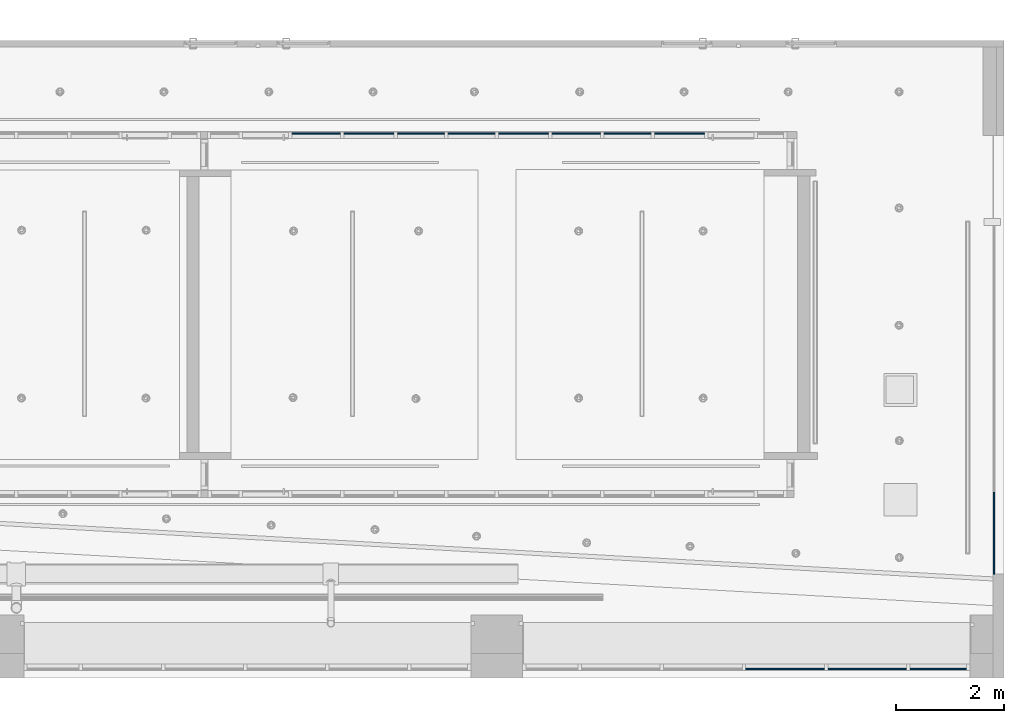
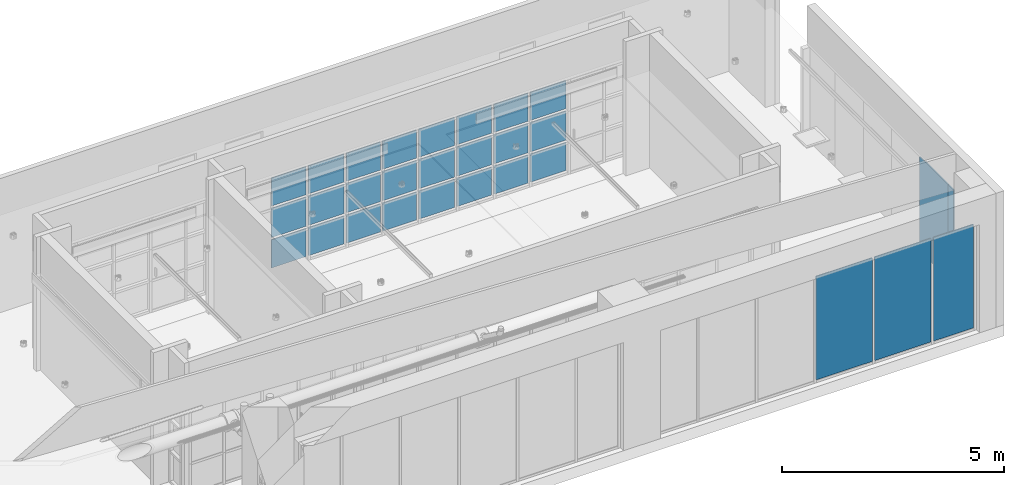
# One storey, part 14 of 108: 29 plates, 3 elements without a shape of their own.
"""IFC4 building model written with IfcOpenShell, lengths in feet."""

from ifc_helpers import new_model, entity, si_unit, converted_unit, derived_unit, direction, frame, frame_2d, origin, origin_2d_with_axis, place, context, subcontext, project, spatial, rectangle, extrude, shape, source, transform, mapped, material, layer, layer_set, layer_usage, type_object, type_shapes, element, aggregate, save


model = new_model("IFC4")

# Units and contexts
model_context = context("Model", 3, precision=0.0001, world=origin(), true_north=direction((6.12303176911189e-17, 1.0)))
body_context = subcontext(model_context, "Body", "Model", "MODEL_VIEW")
footprint_context = subcontext(model_context, "FootPrint", "Model", "MODEL_VIEW")
ifc_project = project(units=[converted_unit("LENGTHUNIT", "FOOT", entity("IfcRatioMeasure", 0.3048), si_unit("LENGTHUNIT", "METRE"), dimensions=[1, 0, 0, 0, 0, 0, 0]), converted_unit("AREAUNIT", "SQUARE FOOT", entity("IfcRatioMeasure", 0.09290304), si_unit("AREAUNIT", "SQUARE_METRE"), dimensions=[2, 0, 0, 0, 0, 0, 0]), converted_unit("VOLUMEUNIT", "CUBIC FOOT", entity("IfcRatioMeasure", 0.028316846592), si_unit("VOLUMEUNIT", "CUBIC_METRE"), dimensions=[3, 0, 0, 0, 0, 0, 0]), converted_unit("PLANEANGLEUNIT", "DEGREE", entity("IfcRatioMeasure", 0.0174532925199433), si_unit("PLANEANGLEUNIT", "RADIAN"), dimensions=[0, 0, 0, 0, 0, 0, 0]), si_unit("MASSUNIT", "GRAM", prefix="KILO"), derived_unit("MASSDENSITYUNIT", [(si_unit("MASSUNIT", "GRAM", prefix="KILO"), 1), (si_unit("LENGTHUNIT", "METRE"), -3)]), si_unit("TIMEUNIT", "SECOND"), si_unit("FREQUENCYUNIT", "HERTZ"), si_unit("THERMODYNAMICTEMPERATUREUNIT", "DEGREE_CELSIUS"), derived_unit("THERMALTRANSMITTANCEUNIT", [(si_unit("MASSUNIT", "GRAM", prefix="KILO"), 1), (si_unit("THERMODYNAMICTEMPERATUREUNIT", "KELVIN"), -1), (si_unit("TIMEUNIT", "SECOND"), -3)]), derived_unit("VOLUMETRICFLOWRATEUNIT", [(si_unit("LENGTHUNIT", "METRE"), 3), (si_unit("TIMEUNIT", "SECOND"), -1)]), si_unit("ELECTRICCURRENTUNIT", "AMPERE"), si_unit("ELECTRICVOLTAGEUNIT", "VOLT"), si_unit("POWERUNIT", "WATT"), si_unit("FORCEUNIT", "NEWTON"), si_unit("ILLUMINANCEUNIT", "LUX"), si_unit("LUMINOUSFLUXUNIT", "LUMEN"), si_unit("LUMINOUSINTENSITYUNIT", "CANDELA"), derived_unit("USERDEFINED", [(si_unit("MASSUNIT", "GRAM", prefix="KILO"), -1), (si_unit("LENGTHUNIT", "METRE"), -2), (si_unit("TIMEUNIT", "SECOND"), 3), (si_unit("LUMINOUSFLUXUNIT", "LUMEN"), 1)]), derived_unit("LINEARVELOCITYUNIT", [(si_unit("LENGTHUNIT", "METRE"), 1), (si_unit("TIMEUNIT", "SECOND"), -1)]), si_unit("PRESSUREUNIT", "PASCAL"), derived_unit("USERDEFINED", [(si_unit("LENGTHUNIT", "METRE"), -2), (si_unit("MASSUNIT", "GRAM", prefix="KILO"), 1), (si_unit("TIMEUNIT", "SECOND"), -2)])], contexts=[model_context])

# Site, building, storey
site_placement = place(None, origin())
site = spatial("IfcSite", under=ifc_project, at=site_placement, Name="Default", CompositionType="ELEMENT")
building_placement = place(site_placement, origin())
building = spatial("IfcBuilding", under=site, at=building_placement, CompositionType="ELEMENT")
storey_placement = place(building_placement, frame((0.0, 0.0, 168.0)))
storey = spatial("IfcBuildingStorey", under=building, at=storey_placement, Name="Level 15", CompositionType="ELEMENT", Elevation=168.0)

# Curtain wall, plates
curtain_wall_type_1 = type_object("IfcCurtainWallType", Name="Curtain Wall:Storefront", PredefinedType="NOTDEFINED")
curtain_wall_1_placement = place(storey_placement, frame((0.0, 0.0, -168.0)))
curtain_wall_1 = element("IfcCurtainWall", 1, at=curtain_wall_1_placement, inside=storey, type_object=curtain_wall_type_1, Name="Curtain Wall:Storefront", ObjectType="Curtain Wall:Storefront", PredefinedType="NOTDEFINED")
ifc_material = material(Name="<Unnamed>")
ifc_layer = layer(ifc_material, 0.0833333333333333, Name="<Unnamed>")
ifc_layer_set = layer_set([ifc_layer], Name="System Panel:Glazed")
ifc_layer_usage_1 = layer_usage(ifc_layer_set, "AXIS3", "POSITIVE", 0.104166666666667)
plate_type_1 = type_object("IfcPlateType", Name="Glazed", PredefinedType="CURTAIN_PANEL", material=ifc_layer_set)
shared_shape_1 = source(origin(), body_context, "Body", "SweptSolid", [
    extrude(rectangle(XDim=0.0833333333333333, YDim=4.16666666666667, at=frame_2d((-6.93889390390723e-18, 0.0), x_axis=(1.0, 0.0))), frame((2.08333333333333, 0.0416666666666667, 0.0), z_axis=(0.0, 0.0, 1.0), x_axis=(0.0, 1.0, 0.0)), (0.0, 0.0, 1.0), 8.52282482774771),
])
cartesian_point_1 = entity("IfcCartesianPoint", [4.16666666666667, 0.0])
shared_shape_2 = source(frame((-2.08333333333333, 0.0625000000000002, 0.0)), footprint_context, "FootPrint", "Curve2D", [
    entity("IfcPolyline", [cartesian_point_1, entity("IfcCartesianPoint", [4.16666666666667, 0.0833333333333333]), entity("IfcCartesianPoint", [0.0, 0.0833333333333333]), entity("IfcCartesianPoint", [0.0, 0.0]), cartesian_point_1]),
])
type_shapes(plate_type_1, [shared_shape_1, shared_shape_2])
plate_1_placement = place(curtain_wall_1_placement, frame((61.2337877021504, -11.7657690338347, 168.0), z_axis=(0.0, 0.0, 1.0), x_axis=(0.0, -1.0, 0.0)))
plate_1 = element("IfcPlate", 2, at=plate_1_placement, type_object=plate_type_1, material=ifc_layer_usage_1, Name="System Panel:Glazed", ObjectType="System Panel:Glazed", PredefinedType="CURTAIN_PANEL", shapes=[
    shape(body_context, "Body", "MappedRepresentation", [mapped(shared_shape_1, transform((0.0, 0.0, 0.0), scale=1.0))]),
    shape(body_context, "Body", "MappedRepresentation", [mapped(shared_shape_2, transform((0.0, 0.0, 0.0), scale=1.0))]),
])
ifc_layer_usage_2 = layer_usage(ifc_layer_set, "AXIS3", "POSITIVE", 0.104166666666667)
plate_type_2 = type_object("IfcPlateType", Name="Glazed", PredefinedType="CURTAIN_PANEL", material=ifc_layer_set)
shared_shape_3 = source(origin(), body_context, "Body", "SweptSolid", [
    extrude(rectangle(XDim=0.0833333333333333, YDim=0.828012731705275, at=frame_2d((-6.93889390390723e-18, 0.0), x_axis=(1.0, 0.0))), frame((0.414006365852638, 0.0416666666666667, 0.0), z_axis=(0.0, 0.0, 1.0), x_axis=(0.0, 1.0, 0.0)), (0.0, 0.0, 1.0), 8.52282482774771),
])
cartesian_point_2 = entity("IfcCartesianPoint", [0.828012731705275, 0.0])
shared_shape_4 = source(frame((-0.414006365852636, 0.0624999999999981, 0.0)), footprint_context, "FootPrint", "Curve2D", [
    entity("IfcPolyline", [cartesian_point_2, entity("IfcCartesianPoint", [0.828012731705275, 0.0833333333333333]), entity("IfcCartesianPoint", [0.0, 0.0833333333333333]), entity("IfcCartesianPoint", [0.0, 0.0]), cartesian_point_2]),
])
type_shapes(plate_type_2, [shared_shape_3, shared_shape_4])
plate_2_placement = place(curtain_wall_1_placement, frame((61.2337877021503, -15.9324357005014, 168.0), z_axis=(0.0, 0.0, 1.0), x_axis=(0.0, -1.0, 0.0)))
plate_2 = element("IfcPlate", 3, at=plate_2_placement, type_object=plate_type_2, material=ifc_layer_usage_2, Name="System Panel:Glazed", ObjectType="System Panel:Glazed", PredefinedType="CURTAIN_PANEL", shapes=[
    shape(body_context, "Body", "MappedRepresentation", [mapped(shared_shape_3, transform((0.0, 0.0, 0.0), scale=1.0))]),
    shape(body_context, "Body", "MappedRepresentation", [mapped(shared_shape_4, transform((0.0, 0.0, 0.0), scale=1.0))]),
])
aggregate(curtain_wall_1, [plate_1, plate_2])

curtain_wall_2_placement = place(storey_placement, frame((0.0, 0.0, -168.0)))
curtain_wall_2 = element("IfcCurtainWall", 4, at=curtain_wall_2_placement, inside=storey, type_object=curtain_wall_type_1, Name="Curtain Wall:Storefront", ObjectType="Curtain Wall:Storefront", PredefinedType="NOTDEFINED")
ifc_layer_usage_3 = layer_usage(ifc_layer_set, "AXIS3", "POSITIVE", 0.104166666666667)
plate_type_3 = type_object("IfcPlateType", Name="Glazed", PredefinedType="CURTAIN_PANEL", material=ifc_layer_set)
shared_shape_5 = source(origin(), body_context, "Body", "SweptSolid", [
    extrude(rectangle(XDim=0.0833333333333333, YDim=3.4375, at=frame_2d((-6.93889390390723e-18, 0.0), x_axis=(1.0, 0.0))), frame((1.71875, 0.0416666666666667, 0.0), z_axis=(0.0, 0.0, 1.0), x_axis=(0.0, 1.0, 0.0)), (0.0, 0.0, 1.0), 9.33210373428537),
])
cartesian_point_3 = entity("IfcCartesianPoint", [3.4375, 0.0])
shared_shape_6 = source(frame((-1.71875, 0.0625, 0.0)), footprint_context, "FootPrint", "Curve2D", [
    entity("IfcPolyline", [cartesian_point_3, entity("IfcCartesianPoint", [3.4375, 0.0833333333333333]), entity("IfcCartesianPoint", [0.0, 0.0833333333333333]), entity("IfcCartesianPoint", [0.0, 0.0]), cartesian_point_3]),
])
type_shapes(plate_type_3, [shared_shape_5, shared_shape_6])
plate_3_placement = place(curtain_wall_2_placement, frame((59.5926457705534, -22.4949357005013, 168.208333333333), z_axis=(0.0, 0.0, 1.0), x_axis=(-1.0, 0.0, 0.0)))
plate_3 = element("IfcPlate", 5, at=plate_3_placement, type_object=plate_type_3, material=ifc_layer_usage_3, Name="System Panel:Glazed", ObjectType="System Panel:Glazed", PredefinedType="CURTAIN_PANEL", shapes=[
    shape(body_context, "Body", "MappedRepresentation", [mapped(shared_shape_5, transform((0.0, 0.0, 0.0), scale=1.0))]),
    shape(body_context, "Body", "MappedRepresentation", [mapped(shared_shape_6, transform((0.0, 0.0, 0.0), scale=1.0))]),
])
ifc_layer_usage_4 = layer_usage(ifc_layer_set, "AXIS3", "POSITIVE", 0.104166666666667)
plate_type_4 = type_object("IfcPlateType", Name="Glazed", PredefinedType="CURTAIN_PANEL", material=ifc_layer_set)
shared_shape_7 = source(origin(), body_context, "Body", "SweptSolid", [
    extrude(rectangle(XDim=0.0833333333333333, YDim=4.79166666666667, at=frame_2d((-6.93889390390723e-18, 0.0), x_axis=(1.0, 0.0))), frame((2.39583333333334, 0.0416666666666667, 0.0), z_axis=(0.0, 0.0, 1.0), x_axis=(0.0, 1.0, 0.0)), (0.0, 0.0, 1.0), 9.33210373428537),
])
cartesian_point_4 = entity("IfcCartesianPoint", [4.79166666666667, 0.0])
shared_shape_8 = source(frame((-2.39583333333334, 0.0625, 0.0)), footprint_context, "FootPrint", "Curve2D", [
    entity("IfcPolyline", [cartesian_point_4, entity("IfcCartesianPoint", [4.79166666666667, 0.0833333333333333]), entity("IfcCartesianPoint", [0.0, 0.0833333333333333]), entity("IfcCartesianPoint", [0.0, 0.0]), cartesian_point_4]),
])
type_shapes(plate_type_4, [shared_shape_7, shared_shape_8])
plate_4_placement = place(curtain_wall_2_placement, frame((55.94681243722, -22.4949357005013, 168.208333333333), z_axis=(0.0, 0.0, 1.0), x_axis=(-1.0, 0.0, 0.0)))
plate_4 = element("IfcPlate", 6, at=plate_4_placement, type_object=plate_type_4, material=ifc_layer_usage_4, Name="System Panel:Glazed", ObjectType="System Panel:Glazed", PredefinedType="CURTAIN_PANEL", shapes=[
    shape(body_context, "Body", "MappedRepresentation", [mapped(shared_shape_7, transform((0.0, 0.0, 0.0), scale=1.0))]),
    shape(body_context, "Body", "MappedRepresentation", [mapped(shared_shape_8, transform((0.0, 0.0, 0.0), scale=1.0))]),
])
ifc_layer_usage_5 = layer_usage(ifc_layer_set, "AXIS3", "POSITIVE", 0.104166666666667)
plate_5_placement = place(curtain_wall_2_placement, frame((50.94681243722, -22.4949357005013, 168.208333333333), z_axis=(0.0, 0.0, 1.0), x_axis=(-1.0, 0.0, 0.0)))
plate_5 = element("IfcPlate", 7, at=plate_5_placement, type_object=plate_type_4, material=ifc_layer_usage_5, Name="System Panel:Glazed", ObjectType="System Panel:Glazed", PredefinedType="CURTAIN_PANEL", shapes=[
    shape(body_context, "Body", "MappedRepresentation", [mapped(shared_shape_7, transform((0.0, 0.0, 0.0), scale=1.0))]),
    shape(body_context, "Body", "MappedRepresentation", [mapped(shared_shape_8, transform((0.0, 0.0, 0.0), scale=1.0))]),
])
aggregate(curtain_wall_2, [plate_3, plate_4, plate_5])

curtain_wall_type_2 = type_object("IfcCurtainWallType", Name="Curtain Wall:Storefront 02", PredefinedType="NOTDEFINED")
curtain_wall_3_placement = place(storey_placement, frame((0.0, 0.0, -168.0)))
curtain_wall_3 = element("IfcCurtainWall", 8, at=curtain_wall_3_placement, inside=storey, type_object=curtain_wall_type_2, Name="Curtain Wall:Storefront 02", ObjectType="Curtain Wall:Storefront 02", PredefinedType="NOTDEFINED")
ifc_layer_usage_6 = layer_usage(ifc_layer_set, "AXIS3", "POSITIVE", 0.104166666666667)
plate_type_5 = type_object("IfcPlateType", Name="Glazed", PredefinedType="CURTAIN_PANEL", material=ifc_layer_set)
shared_shape_9 = source(origin(), body_context, "Body", "SweptSolid", [
    extrude(rectangle(XDim=0.0833333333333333, YDim=3.04166666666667, at=origin_2d_with_axis()), frame((1.52083333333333, 0.0416666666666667, 0.0), z_axis=(0.0, 0.0, 1.0), x_axis=(0.0, 1.0, 0.0)), (0.0, 0.0, 1.0), 2.52844160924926),
])
cartesian_point_5 = entity("IfcCartesianPoint", [3.04166666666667, 0.0])
shared_shape_10 = source(frame((-1.52083333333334, -0.145833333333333, 0.0)), footprint_context, "FootPrint", "Curve2D", [
    entity("IfcPolyline", [cartesian_point_5, entity("IfcCartesianPoint", [3.04166666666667, 0.0833333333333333]), entity("IfcCartesianPoint", [0.0, 0.0833333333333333]), entity("IfcCartesianPoint", [0.0, 0.0]), cartesian_point_5]),
])
type_shapes(plate_type_5, [shared_shape_9, shared_shape_10])
plate_6_placement = place(curtain_wall_3_placement, frame((43.6512039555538, 10.106482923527, 168.208333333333), z_axis=(0.0, 0.0, 1.0), x_axis=(-1.0, 0.0, 0.0)))
plate_6 = element("IfcPlate", 9, at=plate_6_placement, type_object=plate_type_5, material=ifc_layer_usage_6, Name="System Panel:Glazed", ObjectType="System Panel:Glazed", PredefinedType="CURTAIN_PANEL", shapes=[
    shape(body_context, "Body", "MappedRepresentation", [mapped(shared_shape_9, transform((0.0, 0.0, 0.0), scale=1.0))]),
    shape(body_context, "Body", "MappedRepresentation", [mapped(shared_shape_10, transform((0.0, 0.0, 0.0), scale=1.0))]),
])
ifc_layer_usage_7 = layer_usage(ifc_layer_set, "AXIS3", "POSITIVE", 0.104166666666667)
plate_7_placement = place(curtain_wall_3_placement, frame((34.1512039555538, 10.1064829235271, 168.208333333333), z_axis=(0.0, 0.0, 1.0), x_axis=(-1.0, 0.0, 0.0)))
plate_7 = element("IfcPlate", 10, at=plate_7_placement, type_object=plate_type_5, material=ifc_layer_usage_7, Name="System Panel:Glazed", ObjectType="System Panel:Glazed", PredefinedType="CURTAIN_PANEL", shapes=[
    shape(body_context, "Body", "MappedRepresentation", [mapped(shared_shape_9, transform((0.0, 0.0, 0.0), scale=1.0))]),
    shape(body_context, "Body", "MappedRepresentation", [mapped(shared_shape_10, transform((0.0, 0.0, 0.0), scale=1.0))]),
])
ifc_layer_usage_8 = layer_usage(ifc_layer_set, "AXIS3", "POSITIVE", 0.104166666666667)
plate_8_placement = place(curtain_wall_3_placement, frame((24.7345372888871, 10.1064829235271, 168.208333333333), z_axis=(0.0, 0.0, 1.0), x_axis=(-1.0, 0.0, 0.0)))
plate_8 = element("IfcPlate", 11, at=plate_8_placement, type_object=plate_type_5, material=ifc_layer_usage_8, Name="System Panel:Glazed", ObjectType="System Panel:Glazed", PredefinedType="CURTAIN_PANEL", shapes=[
    shape(body_context, "Body", "MappedRepresentation", [mapped(shared_shape_9, transform((0.0, 0.0, 0.0), scale=1.0))]),
    shape(body_context, "Body", "MappedRepresentation", [mapped(shared_shape_10, transform((0.0, 0.0, 0.0), scale=1.0))]),
])
ifc_layer_usage_9 = layer_usage(ifc_layer_set, "AXIS3", "POSITIVE", 0.104166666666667)
plate_9_placement = place(curtain_wall_3_placement, frame((43.6512039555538, 10.106482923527, 173.786049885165), z_axis=(0.0, 0.0, 1.0), x_axis=(-1.0, 0.0, 0.0)))
plate_9 = element("IfcPlate", 12, at=plate_9_placement, type_object=plate_type_5, material=ifc_layer_usage_9, Name="System Panel:Glazed", ObjectType="System Panel:Glazed", PredefinedType="CURTAIN_PANEL", shapes=[
    shape(body_context, "Body", "MappedRepresentation", [mapped(shared_shape_9, transform((0.0, 0.0, 0.0), scale=1.0))]),
    shape(body_context, "Body", "MappedRepresentation", [mapped(shared_shape_10, transform((0.0, 0.0, 0.0), scale=1.0))]),
])
ifc_layer_usage_10 = layer_usage(ifc_layer_set, "AXIS3", "POSITIVE", 0.104166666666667)
plate_10_placement = place(curtain_wall_3_placement, frame((34.1512039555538, 10.1064829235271, 173.786049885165), z_axis=(0.0, 0.0, 1.0), x_axis=(-1.0, 0.0, 0.0)))
plate_10 = element("IfcPlate", 13, at=plate_10_placement, type_object=plate_type_5, material=ifc_layer_usage_10, Name="System Panel:Glazed", ObjectType="System Panel:Glazed", PredefinedType="CURTAIN_PANEL", shapes=[
    shape(body_context, "Body", "MappedRepresentation", [mapped(shared_shape_9, transform((0.0, 0.0, 0.0), scale=1.0))]),
    shape(body_context, "Body", "MappedRepresentation", [mapped(shared_shape_10, transform((0.0, 0.0, 0.0), scale=1.0))]),
])
ifc_layer_usage_11 = layer_usage(ifc_layer_set, "AXIS3", "POSITIVE", 0.104166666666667)
plate_11_placement = place(curtain_wall_3_placement, frame((24.7345372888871, 10.1064829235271, 173.786049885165), z_axis=(0.0, 0.0, 1.0), x_axis=(-1.0, 0.0, 0.0)))
plate_11 = element("IfcPlate", 14, at=plate_11_placement, type_object=plate_type_5, material=ifc_layer_usage_11, Name="System Panel:Glazed", ObjectType="System Panel:Glazed", PredefinedType="CURTAIN_PANEL", shapes=[
    shape(body_context, "Body", "MappedRepresentation", [mapped(shared_shape_9, transform((0.0, 0.0, 0.0), scale=1.0))]),
    shape(body_context, "Body", "MappedRepresentation", [mapped(shared_shape_10, transform((0.0, 0.0, 0.0), scale=1.0))]),
])
ifc_layer_usage_12 = layer_usage(ifc_layer_set, "AXIS3", "POSITIVE", 0.104166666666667)
plate_type_6 = type_object("IfcPlateType", Name="Glazed", PredefinedType="CURTAIN_PANEL", material=ifc_layer_set)
shared_shape_11 = source(origin(), body_context, "Body", "SweptSolid", [
    extrude(rectangle(XDim=0.0833333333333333, YDim=2.875, at=origin_2d_with_axis()), frame((1.4375, 0.0416666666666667, 0.0), z_axis=(0.0, 0.0, 1.0), x_axis=(0.0, 1.0, 0.0)), (0.0, 0.0, 1.0), 2.52844160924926),
])
cartesian_point_6 = entity("IfcCartesianPoint", [2.875, 0.0])
shared_shape_12 = source(frame((-1.4375, -0.145833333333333, 0.0)), footprint_context, "FootPrint", "Curve2D", [
    entity("IfcPolyline", [cartesian_point_6, entity("IfcCartesianPoint", [2.875, 0.0833333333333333]), entity("IfcCartesianPoint", [0.0, 0.0833333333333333]), entity("IfcCartesianPoint", [0.0, 0.0]), cartesian_point_6]),
])
type_shapes(plate_type_6, [shared_shape_11, shared_shape_12])
plate_12_placement = place(curtain_wall_3_placement, frame((40.4012039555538, 10.1064829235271, 168.208333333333), z_axis=(0.0, 0.0, 1.0), x_axis=(-1.0, 0.0, 0.0)))
plate_12 = element("IfcPlate", 15, at=plate_12_placement, type_object=plate_type_6, material=ifc_layer_usage_12, Name="System Panel:Glazed", ObjectType="System Panel:Glazed", PredefinedType="CURTAIN_PANEL", shapes=[
    shape(body_context, "Body", "MappedRepresentation", [mapped(shared_shape_11, transform((0.0, 0.0, 0.0), scale=1.0))]),
    shape(body_context, "Body", "MappedRepresentation", [mapped(shared_shape_12, transform((0.0, 0.0, 0.0), scale=1.0))]),
])
ifc_layer_usage_13 = layer_usage(ifc_layer_set, "AXIS3", "POSITIVE", 0.104166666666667)
plate_13_placement = place(curtain_wall_3_placement, frame((30.9012039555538, 10.1064829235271, 168.208333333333), z_axis=(0.0, 0.0, 1.0), x_axis=(-1.0, 0.0, 0.0)))
plate_13 = element("IfcPlate", 16, at=plate_13_placement, type_object=plate_type_6, material=ifc_layer_usage_13, Name="System Panel:Glazed", ObjectType="System Panel:Glazed", PredefinedType="CURTAIN_PANEL", shapes=[
    shape(body_context, "Body", "MappedRepresentation", [mapped(shared_shape_11, transform((0.0, 0.0, 0.0), scale=1.0))]),
    shape(body_context, "Body", "MappedRepresentation", [mapped(shared_shape_12, transform((0.0, 0.0, 0.0), scale=1.0))]),
])
ifc_layer_usage_14 = layer_usage(ifc_layer_set, "AXIS3", "POSITIVE", 0.104166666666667)
plate_14_placement = place(curtain_wall_3_placement, frame((27.8178706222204, 10.1064829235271, 168.208333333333), z_axis=(0.0, 0.0, 1.0), x_axis=(-1.0, 0.0, 0.0)))
plate_14 = element("IfcPlate", 17, at=plate_14_placement, type_object=plate_type_6, material=ifc_layer_usage_14, Name="System Panel:Glazed", ObjectType="System Panel:Glazed", PredefinedType="CURTAIN_PANEL", shapes=[
    shape(body_context, "Body", "MappedRepresentation", [mapped(shared_shape_11, transform((0.0, 0.0, 0.0), scale=1.0))]),
    shape(body_context, "Body", "MappedRepresentation", [mapped(shared_shape_12, transform((0.0, 0.0, 0.0), scale=1.0))]),
])
ifc_layer_usage_15 = layer_usage(ifc_layer_set, "AXIS3", "POSITIVE", 0.104166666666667)
plate_15_placement = place(curtain_wall_3_placement, frame((40.4012039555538, 10.1064829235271, 173.786049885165), z_axis=(0.0, 0.0, 1.0), x_axis=(-1.0, 0.0, 0.0)))
plate_15 = element("IfcPlate", 18, at=plate_15_placement, type_object=plate_type_6, material=ifc_layer_usage_15, Name="System Panel:Glazed", ObjectType="System Panel:Glazed", PredefinedType="CURTAIN_PANEL", shapes=[
    shape(body_context, "Body", "MappedRepresentation", [mapped(shared_shape_11, transform((0.0, 0.0, 0.0), scale=1.0))]),
    shape(body_context, "Body", "MappedRepresentation", [mapped(shared_shape_12, transform((0.0, 0.0, 0.0), scale=1.0))]),
])
ifc_layer_usage_16 = layer_usage(ifc_layer_set, "AXIS3", "POSITIVE", 0.104166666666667)
plate_16_placement = place(curtain_wall_3_placement, frame((30.9012039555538, 10.1064829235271, 173.786049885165), z_axis=(0.0, 0.0, 1.0), x_axis=(-1.0, 0.0, 0.0)))
plate_16 = element("IfcPlate", 19, at=plate_16_placement, type_object=plate_type_6, material=ifc_layer_usage_16, Name="System Panel:Glazed", ObjectType="System Panel:Glazed", PredefinedType="CURTAIN_PANEL", shapes=[
    shape(body_context, "Body", "MappedRepresentation", [mapped(shared_shape_11, transform((0.0, 0.0, 0.0), scale=1.0))]),
    shape(body_context, "Body", "MappedRepresentation", [mapped(shared_shape_12, transform((0.0, 0.0, 0.0), scale=1.0))]),
])
ifc_layer_usage_17 = layer_usage(ifc_layer_set, "AXIS3", "POSITIVE", 0.104166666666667)
plate_17_placement = place(curtain_wall_3_placement, frame((27.8178706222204, 10.1064829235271, 173.786049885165), z_axis=(0.0, 0.0, 1.0), x_axis=(-1.0, 0.0, 0.0)))
plate_17 = element("IfcPlate", 20, at=plate_17_placement, type_object=plate_type_6, material=ifc_layer_usage_17, Name="System Panel:Glazed", ObjectType="System Panel:Glazed", PredefinedType="CURTAIN_PANEL", shapes=[
    shape(body_context, "Body", "MappedRepresentation", [mapped(shared_shape_11, transform((0.0, 0.0, 0.0), scale=1.0))]),
    shape(body_context, "Body", "MappedRepresentation", [mapped(shared_shape_12, transform((0.0, 0.0, 0.0), scale=1.0))]),
])
ifc_layer_usage_18 = layer_usage(ifc_layer_set, "AXIS3", "POSITIVE", 0.104166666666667)
plate_type_7 = type_object("IfcPlateType", Name="Glazed", PredefinedType="CURTAIN_PANEL", material=ifc_layer_set)
shared_shape_13 = source(origin(), body_context, "Body", "SweptSolid", [
    extrude(rectangle(XDim=0.0833333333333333, YDim=2.95833333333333, at=origin_2d_with_axis()), frame((1.47916666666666, 0.0416666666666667, 0.0), z_axis=(0.0, 0.0, 1.0), x_axis=(0.0, 1.0, 0.0)), (0.0, 0.0, 1.0), 2.52844160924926),
])
cartesian_point_7 = entity("IfcCartesianPoint", [2.95833333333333, 0.0])
shared_shape_14 = source(frame((-1.47916666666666, -0.145833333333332, 0.0)), footprint_context, "FootPrint", "Curve2D", [
    entity("IfcPolyline", [cartesian_point_7, entity("IfcCartesianPoint", [2.95833333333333, 0.0833333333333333]), entity("IfcCartesianPoint", [0.0, 0.0833333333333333]), entity("IfcCartesianPoint", [0.0, 0.0]), cartesian_point_7]),
])
type_shapes(plate_type_7, [shared_shape_13, shared_shape_14])
plate_18_placement = place(curtain_wall_3_placement, frame((37.3178706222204, 10.1064829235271, 168.208333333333), z_axis=(0.0, 0.0, 1.0), x_axis=(-1.0, 0.0, 0.0)))
plate_18 = element("IfcPlate", 21, at=plate_18_placement, type_object=plate_type_7, material=ifc_layer_usage_18, Name="System Panel:Glazed", ObjectType="System Panel:Glazed", PredefinedType="CURTAIN_PANEL", shapes=[
    shape(body_context, "Body", "MappedRepresentation", [mapped(shared_shape_13, transform((0.0, 0.0, 0.0), scale=1.0))]),
    shape(body_context, "Body", "MappedRepresentation", [mapped(shared_shape_14, transform((0.0, 0.0, 0.0), scale=1.0))]),
])
ifc_layer_usage_19 = layer_usage(ifc_layer_set, "AXIS3", "POSITIVE", 0.104166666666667)
plate_19_placement = place(curtain_wall_3_placement, frame((21.4845372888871, 10.1064829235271, 168.208333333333), z_axis=(0.0, 0.0, 1.0), x_axis=(-1.0, 0.0, 0.0)))
plate_19 = element("IfcPlate", 22, at=plate_19_placement, type_object=plate_type_7, material=ifc_layer_usage_19, Name="System Panel:Glazed", ObjectType="System Panel:Glazed", PredefinedType="CURTAIN_PANEL", shapes=[
    shape(body_context, "Body", "MappedRepresentation", [mapped(shared_shape_13, transform((0.0, 0.0, 0.0), scale=1.0))]),
    shape(body_context, "Body", "MappedRepresentation", [mapped(shared_shape_14, transform((0.0, 0.0, 0.0), scale=1.0))]),
])
ifc_layer_usage_20 = layer_usage(ifc_layer_set, "AXIS3", "POSITIVE", 0.104166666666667)
plate_20_placement = place(curtain_wall_3_placement, frame((37.3178706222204, 10.1064829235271, 173.786049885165), z_axis=(0.0, 0.0, 1.0), x_axis=(-1.0, 0.0, 0.0)))
plate_20 = element("IfcPlate", 23, at=plate_20_placement, type_object=plate_type_7, material=ifc_layer_usage_20, Name="System Panel:Glazed", ObjectType="System Panel:Glazed", PredefinedType="CURTAIN_PANEL", shapes=[
    shape(body_context, "Body", "MappedRepresentation", [mapped(shared_shape_13, transform((0.0, 0.0, 0.0), scale=1.0))]),
    shape(body_context, "Body", "MappedRepresentation", [mapped(shared_shape_14, transform((0.0, 0.0, 0.0), scale=1.0))]),
])
ifc_layer_usage_21 = layer_usage(ifc_layer_set, "AXIS3", "POSITIVE", 0.104166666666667)
plate_21_placement = place(curtain_wall_3_placement, frame((21.4845372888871, 10.1064829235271, 173.786049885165), z_axis=(0.0, 0.0, 1.0), x_axis=(-1.0, 0.0, 0.0)))
plate_21 = element("IfcPlate", 24, at=plate_21_placement, type_object=plate_type_7, material=ifc_layer_usage_21, Name="System Panel:Glazed", ObjectType="System Panel:Glazed", PredefinedType="CURTAIN_PANEL", shapes=[
    shape(body_context, "Body", "MappedRepresentation", [mapped(shared_shape_13, transform((0.0, 0.0, 0.0), scale=1.0))]),
    shape(body_context, "Body", "MappedRepresentation", [mapped(shared_shape_14, transform((0.0, 0.0, 0.0), scale=1.0))]),
])
ifc_layer_usage_22 = layer_usage(ifc_layer_set, "AXIS3", "POSITIVE", 0.104166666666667)
plate_type_8 = type_object("IfcPlateType", Name="Glazed", PredefinedType="CURTAIN_PANEL", material=ifc_layer_set)
shared_shape_15 = source(origin(), body_context, "Body", "SweptSolid", [
    extrude(rectangle(XDim=0.0833333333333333, YDim=3.04166666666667, at=origin_2d_with_axis()), frame((1.52083333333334, 0.0416666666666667, 0.0), z_axis=(0.0, 0.0, 1.0), x_axis=(0.0, 1.0, 0.0)), (0.0, 0.0, 1.0), 2.63260827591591),
])
cartesian_point_8 = entity("IfcCartesianPoint", [3.04166666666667, 0.0])
shared_shape_16 = source(frame((-1.52083333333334, -0.145833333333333, 0.0)), footprint_context, "FootPrint", "Curve2D", [
    entity("IfcPolyline", [cartesian_point_8, entity("IfcCartesianPoint", [3.04166666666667, 0.0833333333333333]), entity("IfcCartesianPoint", [0.0, 0.0833333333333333]), entity("IfcCartesianPoint", [0.0, 0.0]), cartesian_point_8]),
])
type_shapes(plate_type_8, [shared_shape_15, shared_shape_16])
plate_22_placement = place(curtain_wall_3_placement, frame((43.6512039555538, 10.106482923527, 170.945108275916), z_axis=(0.0, 0.0, 1.0), x_axis=(-1.0, 0.0, 0.0)))
plate_22 = element("IfcPlate", 25, at=plate_22_placement, type_object=plate_type_8, material=ifc_layer_usage_22, Name="System Panel:Glazed", ObjectType="System Panel:Glazed", PredefinedType="CURTAIN_PANEL", shapes=[
    shape(body_context, "Body", "MappedRepresentation", [mapped(shared_shape_15, transform((0.0, 0.0, 0.0), scale=1.0))]),
    shape(body_context, "Body", "MappedRepresentation", [mapped(shared_shape_16, transform((0.0, 0.0, 0.0), scale=1.0))]),
])
ifc_layer_usage_23 = layer_usage(ifc_layer_set, "AXIS3", "POSITIVE", 0.104166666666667)
plate_23_placement = place(curtain_wall_3_placement, frame((34.1512039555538, 10.1064829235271, 170.945108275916), z_axis=(0.0, 0.0, 1.0), x_axis=(-1.0, 0.0, 0.0)))
plate_23 = element("IfcPlate", 26, at=plate_23_placement, type_object=plate_type_8, material=ifc_layer_usage_23, Name="System Panel:Glazed", ObjectType="System Panel:Glazed", PredefinedType="CURTAIN_PANEL", shapes=[
    shape(body_context, "Body", "MappedRepresentation", [mapped(shared_shape_15, transform((0.0, 0.0, 0.0), scale=1.0))]),
    shape(body_context, "Body", "MappedRepresentation", [mapped(shared_shape_16, transform((0.0, 0.0, 0.0), scale=1.0))]),
])
ifc_layer_usage_24 = layer_usage(ifc_layer_set, "AXIS3", "POSITIVE", 0.104166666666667)
plate_24_placement = place(curtain_wall_3_placement, frame((24.7345372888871, 10.1064829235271, 170.945108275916), z_axis=(0.0, 0.0, 1.0), x_axis=(-1.0, 0.0, 0.0)))
plate_24 = element("IfcPlate", 27, at=plate_24_placement, type_object=plate_type_8, material=ifc_layer_usage_24, Name="System Panel:Glazed", ObjectType="System Panel:Glazed", PredefinedType="CURTAIN_PANEL", shapes=[
    shape(body_context, "Body", "MappedRepresentation", [mapped(shared_shape_15, transform((0.0, 0.0, 0.0), scale=1.0))]),
    shape(body_context, "Body", "MappedRepresentation", [mapped(shared_shape_16, transform((0.0, 0.0, 0.0), scale=1.0))]),
])
ifc_layer_usage_25 = layer_usage(ifc_layer_set, "AXIS3", "POSITIVE", 0.104166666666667)
plate_type_9 = type_object("IfcPlateType", Name="Glazed", PredefinedType="CURTAIN_PANEL", material=ifc_layer_set)
shared_shape_17 = source(origin(), body_context, "Body", "SweptSolid", [
    extrude(rectangle(XDim=0.0833333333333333, YDim=2.87500000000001, at=origin_2d_with_axis()), frame((1.4375, 0.0416666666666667, 0.0), z_axis=(0.0, 0.0, 1.0), x_axis=(0.0, 1.0, 0.0)), (0.0, 0.0, 1.0), 2.63260827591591),
])
cartesian_point_9 = entity("IfcCartesianPoint", [2.87500000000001, 0.0])
shared_shape_18 = source(frame((-1.43750000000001, -0.145833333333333, 0.0)), footprint_context, "FootPrint", "Curve2D", [
    entity("IfcPolyline", [cartesian_point_9, entity("IfcCartesianPoint", [2.87500000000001, 0.0833333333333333]), entity("IfcCartesianPoint", [0.0, 0.0833333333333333]), entity("IfcCartesianPoint", [0.0, 0.0]), cartesian_point_9]),
])
type_shapes(plate_type_9, [shared_shape_17, shared_shape_18])
plate_25_placement = place(curtain_wall_3_placement, frame((40.4012039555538, 10.1064829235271, 170.945108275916), z_axis=(0.0, 0.0, 1.0), x_axis=(-1.0, 0.0, 0.0)))
plate_25 = element("IfcPlate", 28, at=plate_25_placement, type_object=plate_type_9, material=ifc_layer_usage_25, Name="System Panel:Glazed", ObjectType="System Panel:Glazed", PredefinedType="CURTAIN_PANEL", shapes=[
    shape(body_context, "Body", "MappedRepresentation", [mapped(shared_shape_17, transform((0.0, 0.0, 0.0), scale=1.0))]),
    shape(body_context, "Body", "MappedRepresentation", [mapped(shared_shape_18, transform((0.0, 0.0, 0.0), scale=1.0))]),
])
ifc_layer_usage_26 = layer_usage(ifc_layer_set, "AXIS3", "POSITIVE", 0.104166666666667)
plate_26_placement = place(curtain_wall_3_placement, frame((30.9012039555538, 10.1064829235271, 170.945108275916), z_axis=(0.0, 0.0, 1.0), x_axis=(-1.0, 0.0, 0.0)))
plate_26 = element("IfcPlate", 29, at=plate_26_placement, type_object=plate_type_9, material=ifc_layer_usage_26, Name="System Panel:Glazed", ObjectType="System Panel:Glazed", PredefinedType="CURTAIN_PANEL", shapes=[
    shape(body_context, "Body", "MappedRepresentation", [mapped(shared_shape_17, transform((0.0, 0.0, 0.0), scale=1.0))]),
    shape(body_context, "Body", "MappedRepresentation", [mapped(shared_shape_18, transform((0.0, 0.0, 0.0), scale=1.0))]),
])
ifc_layer_usage_27 = layer_usage(ifc_layer_set, "AXIS3", "POSITIVE", 0.104166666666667)
plate_27_placement = place(curtain_wall_3_placement, frame((27.8178706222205, 10.1064829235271, 170.945108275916), z_axis=(0.0, 0.0, 1.0), x_axis=(-1.0, 0.0, 0.0)))
plate_27 = element("IfcPlate", 30, at=plate_27_placement, type_object=plate_type_9, material=ifc_layer_usage_27, Name="System Panel:Glazed", ObjectType="System Panel:Glazed", PredefinedType="CURTAIN_PANEL", shapes=[
    shape(body_context, "Body", "MappedRepresentation", [mapped(shared_shape_17, transform((0.0, 0.0, 0.0), scale=1.0))]),
    shape(body_context, "Body", "MappedRepresentation", [mapped(shared_shape_18, transform((0.0, 0.0, 0.0), scale=1.0))]),
])
ifc_layer_usage_28 = layer_usage(ifc_layer_set, "AXIS3", "POSITIVE", 0.104166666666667)
plate_type_10 = type_object("IfcPlateType", Name="Glazed", PredefinedType="CURTAIN_PANEL", material=ifc_layer_set)
shared_shape_19 = source(origin(), body_context, "Body", "SweptSolid", [
    extrude(rectangle(XDim=0.0833333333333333, YDim=2.95833333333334, at=origin_2d_with_axis()), frame((1.47916666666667, 0.0416666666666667, 0.0), z_axis=(0.0, 0.0, 1.0), x_axis=(0.0, 1.0, 0.0)), (0.0, 0.0, 1.0), 2.63260827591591),
])
cartesian_point_10 = entity("IfcCartesianPoint", [2.95833333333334, 0.0])
shared_shape_20 = source(frame((-1.47916666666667, -0.145833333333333, 0.0)), footprint_context, "FootPrint", "Curve2D", [
    entity("IfcPolyline", [cartesian_point_10, entity("IfcCartesianPoint", [2.95833333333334, 0.0833333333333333]), entity("IfcCartesianPoint", [0.0, 0.0833333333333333]), entity("IfcCartesianPoint", [0.0, 0.0]), cartesian_point_10]),
])
type_shapes(plate_type_10, [shared_shape_19, shared_shape_20])
plate_28_placement = place(curtain_wall_3_placement, frame((37.3178706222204, 10.1064829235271, 170.945108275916), z_axis=(0.0, 0.0, 1.0), x_axis=(-1.0, 0.0, 0.0)))
plate_28 = element("IfcPlate", 31, at=plate_28_placement, type_object=plate_type_10, material=ifc_layer_usage_28, Name="System Panel:Glazed", ObjectType="System Panel:Glazed", PredefinedType="CURTAIN_PANEL", shapes=[
    shape(body_context, "Body", "MappedRepresentation", [mapped(shared_shape_19, transform((0.0, 0.0, 0.0), scale=1.0))]),
    shape(body_context, "Body", "MappedRepresentation", [mapped(shared_shape_20, transform((0.0, 0.0, 0.0), scale=1.0))]),
])
ifc_layer_usage_29 = layer_usage(ifc_layer_set, "AXIS3", "POSITIVE", 0.104166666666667)
plate_29_placement = place(curtain_wall_3_placement, frame((21.4845372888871, 10.1064829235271, 170.945108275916), z_axis=(0.0, 0.0, 1.0), x_axis=(-1.0, 0.0, 0.0)))
plate_29 = element("IfcPlate", 32, at=plate_29_placement, type_object=plate_type_10, material=ifc_layer_usage_29, Name="System Panel:Glazed", ObjectType="System Panel:Glazed", PredefinedType="CURTAIN_PANEL", shapes=[
    shape(body_context, "Body", "MappedRepresentation", [mapped(shared_shape_19, transform((0.0, 0.0, 0.0), scale=1.0))]),
    shape(body_context, "Body", "MappedRepresentation", [mapped(shared_shape_20, transform((0.0, 0.0, 0.0), scale=1.0))]),
])
aggregate(curtain_wall_3, [plate_6, plate_12, plate_18, plate_7, plate_13, plate_14, plate_8, plate_19, plate_22, plate_25, plate_28, plate_23, plate_26, plate_27, plate_24, plate_29, plate_9, plate_15, plate_20, plate_10, plate_16, plate_17, plate_11, plate_21])

save(model, "model.ifc")
